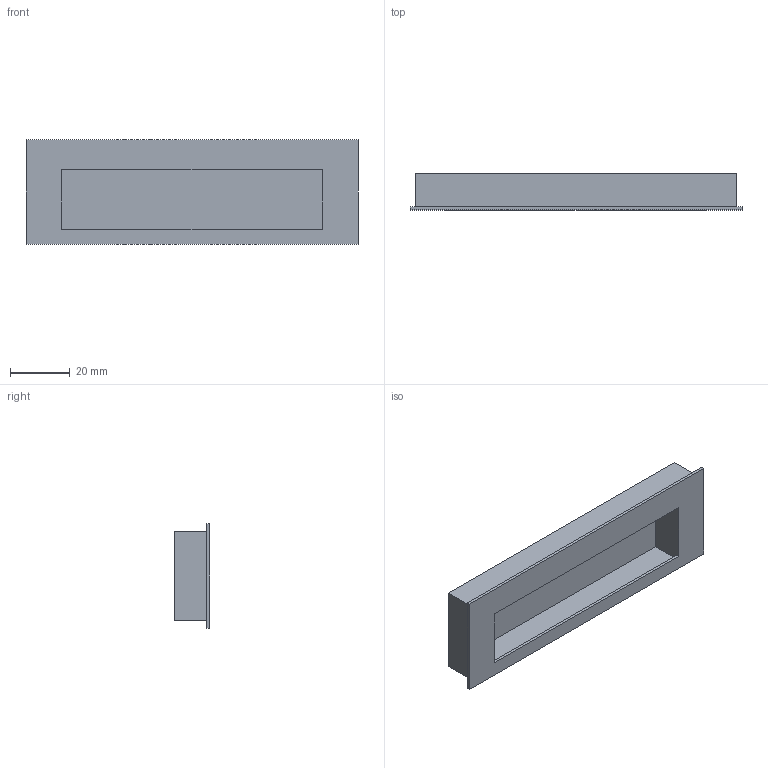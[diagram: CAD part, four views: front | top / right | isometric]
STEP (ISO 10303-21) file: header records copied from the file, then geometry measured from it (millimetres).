
FILE_DESCRIPTION( ( '' ), '1' );
FILE_NAME( 'C:/Documents and Settings/Sachin/Desktop/Sheet 10_1/stp/ 9071060.stp', '2013-10-22T05:59:58', ( '' ), ( '' ), ' ', ' ', ' ' );
FILE_SCHEMA( ( 'CONFIG_CONTROL_DESIGN' ) );
Length unit declared in the file: millimetre
Products named in the file (1): 1
Bounding box: 111 x 12 x 35 mm (x, y, z)
Volume: 12893.9 mm3; surface area: 15183.1 mm2
Topology: 1 solids, 1 shells, 26 faces, 60 edges, 40 vertices
Faces by surface type: plane 22, cylinder 4
Entity records: 776 total; most frequent: CARTESIAN_POINT 127, DIRECTION 122, ORIENTED_EDGE 120, EDGE_CURVE 60, LINE 52, VECTOR 52, VERTEX_POINT 40, AXIS2_PLACEMENT_3D 35
